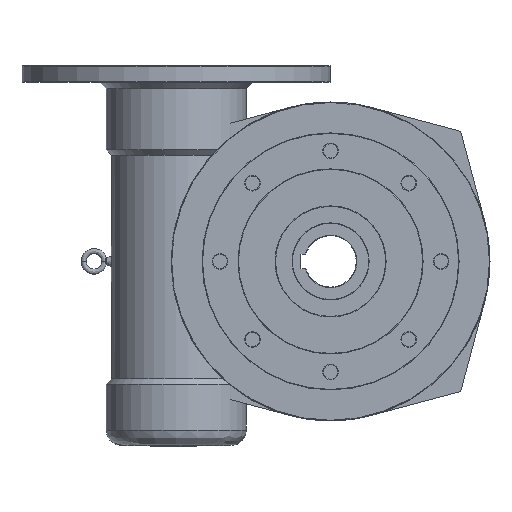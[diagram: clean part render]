
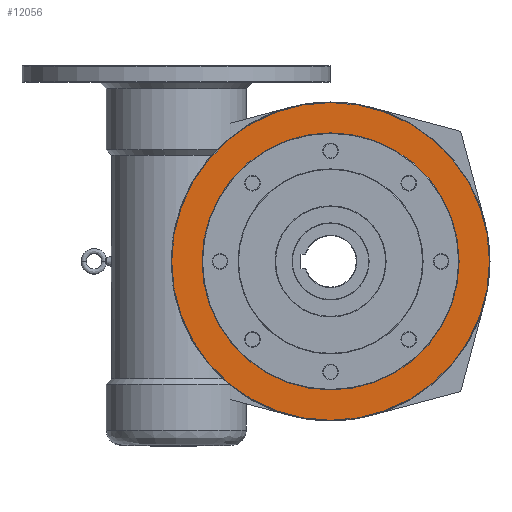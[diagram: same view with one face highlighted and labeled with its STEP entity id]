
A CAD part, left-side view. The second image highlights one B-rep face of the part: STEP entity #12056.
In plain terms, the highlighted planar face has unit normal (-1, 0, 0).
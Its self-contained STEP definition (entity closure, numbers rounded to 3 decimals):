
#1303 = DIRECTION ( 'NONE',  ( 1., 0., 0. ) ) ;
#2332 = VERTEX_POINT ( 'NONE', #36237 ) ;
#2400 = EDGE_LOOP ( 'NONE', ( #16679, #3046 ) ) ;
#3046 = ORIENTED_EDGE ( 'NONE', *, *, #32084, .F. ) ;
#3849 = VERTEX_POINT ( 'NONE', #4261 ) ;
#4261 = CARTESIAN_POINT ( 'NONE',  ( -114.684, -49.852, -159.998 ) ) ;
#7005 = CIRCLE ( 'NONE', #57030, 125. ) ;
#8425 = VERTEX_POINT ( 'NONE', #44538 ) ;
#12056 = ADVANCED_FACE ( 'NONE', ( #20063, #35487 ), #32995, .F. ) ;
#12701 = CARTESIAN_POINT ( 'NONE',  ( -114.684, -49.852, -5.498 ) ) ;
#15223 = CARTESIAN_POINT ( 'NONE',  ( -114.684, -49.852, -5.498 ) ) ;
#15791 = VERTEX_POINT ( 'NONE', #16497 ) ;
#16497 = CARTESIAN_POINT ( 'NONE',  ( -114.684, -49.852, -130.498 ) ) ;
#16679 = ORIENTED_EDGE ( 'NONE', *, *, #46308, .F. ) ;
#16816 = AXIS2_PLACEMENT_3D ( 'NONE', #34250, #52556, #52758 ) ;
#18659 = CIRCLE ( 'NONE', #29784, 125. ) ;
#20015 = DIRECTION ( 'NONE',  ( 1., 0., 0. ) ) ;
#20063 = FACE_BOUND ( 'NONE', #55190, .T. ) ;
#26447 = CIRCLE ( 'NONE', #50040, 154.5 ) ;
#29680 = DIRECTION ( 'NONE',  ( 0., 0., -1. ) ) ;
#29784 = AXIS2_PLACEMENT_3D ( 'NONE', #12701, #59154, #45172 ) ;
#32084 = EDGE_CURVE ( 'NONE', #8425, #3849, #57934, .T. ) ;
#32262 = DIRECTION ( 'NONE',  ( 0., 0., 1. ) ) ;
#32995 = PLANE ( 'NONE',  #56529 ) ;
#34250 = CARTESIAN_POINT ( 'NONE',  ( -114.684, -49.852, -5.498 ) ) ;
#35487 = FACE_OUTER_BOUND ( 'NONE', #2400, .T. ) ;
#36237 = CARTESIAN_POINT ( 'NONE',  ( -114.684, -49.852, 119.502 ) ) ;
#38749 = CARTESIAN_POINT ( 'NONE',  ( -114.684, 105.148, -5.498 ) ) ;
#41316 = CARTESIAN_POINT ( 'NONE',  ( -114.684, -49.852, -5.498 ) ) ;
#44538 = CARTESIAN_POINT ( 'NONE',  ( -114.684, -49.852, 149.002 ) ) ;
#45172 = DIRECTION ( 'NONE',  ( 0., 0., 1. ) ) ;
#45460 = ORIENTED_EDGE ( 'NONE', *, *, #54634, .F. ) ;
#46308 = EDGE_CURVE ( 'NONE', #3849, #8425, #26447, .T. ) ;
#50040 = AXIS2_PLACEMENT_3D ( 'NONE', #15223, #1303, #53209 ) ;
#52556 = DIRECTION ( 'NONE',  ( 1., 0., 0. ) ) ;
#52758 = DIRECTION ( 'NONE',  ( 0., 0., -1. ) ) ;
#53209 = DIRECTION ( 'NONE',  ( 0., 0., -1. ) ) ;
#54634 = EDGE_CURVE ( 'NONE', #2332, #15791, #18659, .T. ) ;
#55190 = EDGE_LOOP ( 'NONE', ( #45460, #60220 ) ) ;
#56529 = AXIS2_PLACEMENT_3D ( 'NONE', #38749, #20015, #29680 ) ;
#57030 = AXIS2_PLACEMENT_3D ( 'NONE', #41316, #60838, #32262 ) ;
#57934 = CIRCLE ( 'NONE', #16816, 154.5 ) ;
#59154 = DIRECTION ( 'NONE',  ( -1., 0., 0. ) ) ;
#60220 = ORIENTED_EDGE ( 'NONE', *, *, #60499, .F. ) ;
#60499 = EDGE_CURVE ( 'NONE', #15791, #2332, #7005, .T. ) ;
#60838 = DIRECTION ( 'NONE',  ( -1., 0., 0. ) ) ;
